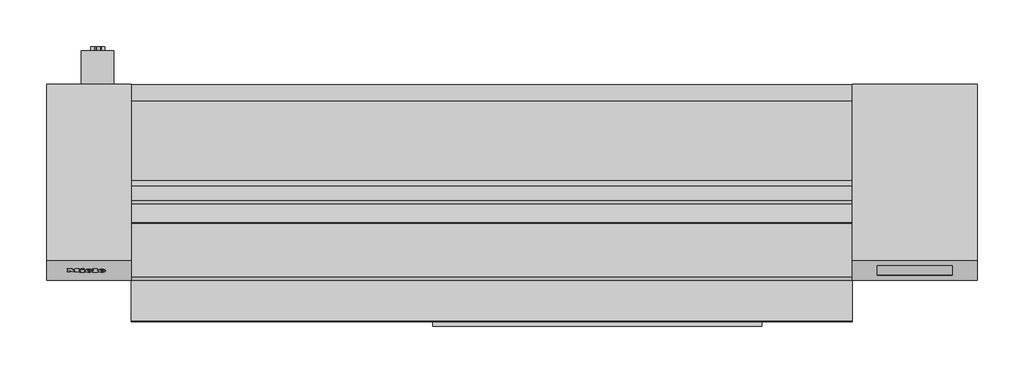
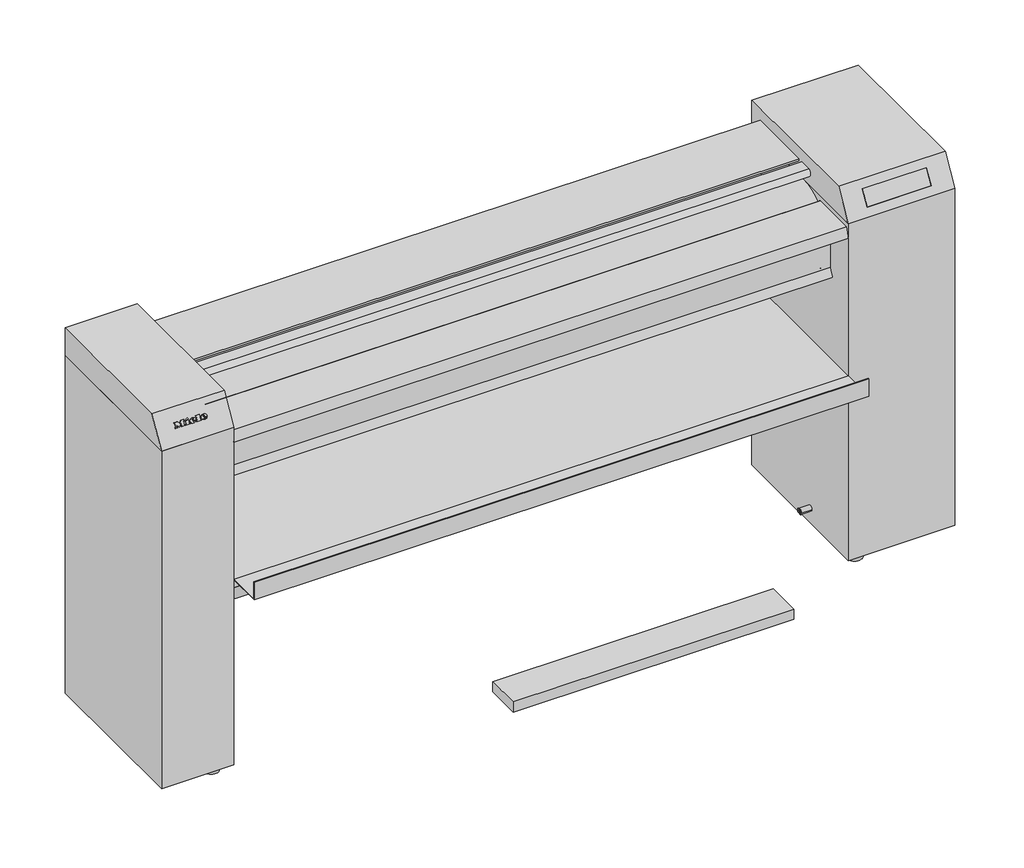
# Not in any storey: 1 proxy.
"""IFC4 building model written with IfcOpenShell, lengths in millimetres."""

from ifc_helpers import new_model, si_unit, origin, place, context, project, spatial, transform, mapped, element, save
from components import specialty_equipment_8e6d1a1f

model = new_model("IFC4")

# Units and contexts
model_context = context("Model", 3, world=origin())
ifc_project = project(units=[si_unit("LENGTHUNIT", "METRE", prefix="MILLI")], contexts=[model_context])

# Site, building
site = spatial("IfcSite", under=ifc_project)
building = spatial("IfcBuilding", under=site)

# Proxy
placement = place(None, origin())
specialty_equipment_shape = specialty_equipment_8e6d1a1f(model_context)
element("IfcBuildingElementProxy", 1, Name="11744740_EU_PRI217EL_STW : 53217009_EU_11744740_PRI217EL_STW", ObjectType="11744740_EU_PRI217EL_STW : 53217009_EU_11744740_PRI217EL_STW", at=placement, inside=building, context=model_context, shape_type="MappedRepresentation", body=[
    mapped(specialty_equipment_shape, transform((0.0, 0.0, 0.0), x_axis=(1.0, 0.0, 0.0), y_axis=(0.0, 1.0, 0.0), z_axis=(0.0, 0.0, 1.0))),
])

save(model, "model.ifc")
